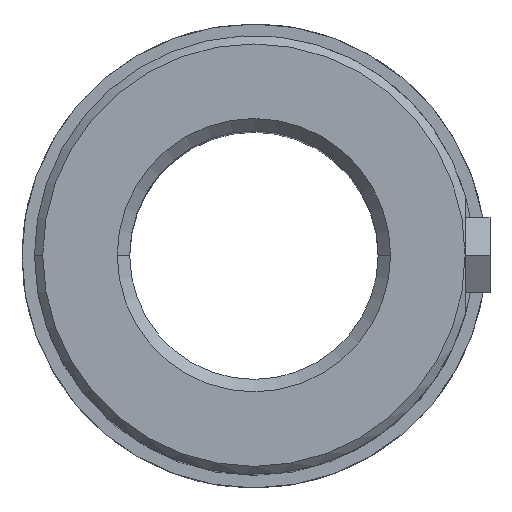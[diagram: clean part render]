
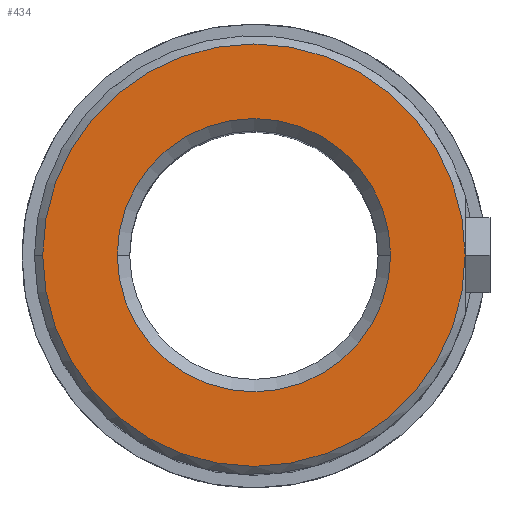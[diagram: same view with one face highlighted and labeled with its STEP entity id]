
A CAD part, top view. The second image highlights one B-rep face of the part: STEP entity #434.
In plain terms, the highlighted planar face has unit normal (0, 0, 1).
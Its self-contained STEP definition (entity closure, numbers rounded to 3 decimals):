
#316=CARTESIAN_POINT('Axis2P3D Location',(0.,0.,63.)) ;
#320=CARTESIAN_POINT('Vertex',(16.5,0.,63.)) ;
#322=CARTESIAN_POINT('Vertex',(-16.5,0.,63.)) ;
#378=CARTESIAN_POINT('Axis2P3D Location',(0.,0.,63.)) ;
#407=CARTESIAN_POINT('Axis2P3D Location',(16.5,0.,63.)) ;
#412=CARTESIAN_POINT('Axis2P3D Location',(0.,0.,63.)) ;
#416=CARTESIAN_POINT('Vertex',(25.5,0.,63.)) ;
#418=CARTESIAN_POINT('Vertex',(-25.5,0.,63.)) ;
#421=CARTESIAN_POINT('Axis2P3D Location',(0.,0.,63.)) ;
#317=DIRECTION('Axis2P3D Direction',(0.,-0.,1.)) ;
#379=DIRECTION('Axis2P3D Direction',(0.,-0.,1.)) ;
#408=DIRECTION('Axis2P3D Direction',(0.,-0.,1.)) ;
#409=DIRECTION('Axis2P3D XDirection',(1.,0.,0.)) ;
#413=DIRECTION('Axis2P3D Direction',(0.,-0.,1.)) ;
#422=DIRECTION('Axis2P3D Direction',(0.,-0.,1.)) ;
#318=AXIS2_PLACEMENT_3D('Circle Axis2P3D',#316,#317,$) ;
#380=AXIS2_PLACEMENT_3D('Circle Axis2P3D',#378,#379,$) ;
#410=AXIS2_PLACEMENT_3D('Plane Axis2P3D',#407,#408,#409) ;
#414=AXIS2_PLACEMENT_3D('Circle Axis2P3D',#412,#413,$) ;
#423=AXIS2_PLACEMENT_3D('Circle Axis2P3D',#421,#422,$) ;
#427=ORIENTED_EDGE('',*,*,#420,.T.) ;
#428=ORIENTED_EDGE('',*,*,#425,.T.) ;
#431=ORIENTED_EDGE('',*,*,#382,.F.) ;
#432=ORIENTED_EDGE('',*,*,#324,.F.) ;
#433=FACE_BOUND('',#430,.T.) ;
#434=ADVANCED_FACE('742-30',(#429,#433),#411,.T.) ;
#319=CIRCLE('generated circle',#318,16.5) ;
#381=CIRCLE('generated circle',#380,16.5) ;
#415=CIRCLE('generated circle',#414,25.5) ;
#424=CIRCLE('generated circle',#423,25.5) ;
#324=EDGE_CURVE('',#321,#323,#319,.T.) ;
#382=EDGE_CURVE('',#323,#321,#381,.T.) ;
#420=EDGE_CURVE('',#417,#419,#415,.T.) ;
#425=EDGE_CURVE('',#419,#417,#424,.T.) ;
#426=EDGE_LOOP('',(#427,#428)) ;
#430=EDGE_LOOP('',(#431,#432)) ;
#429=FACE_OUTER_BOUND('',#426,.T.) ;
#411=PLANE('Plane',#410) ;
#321=VERTEX_POINT('',#320) ;
#323=VERTEX_POINT('',#322) ;
#417=VERTEX_POINT('',#416) ;
#419=VERTEX_POINT('',#418) ;
